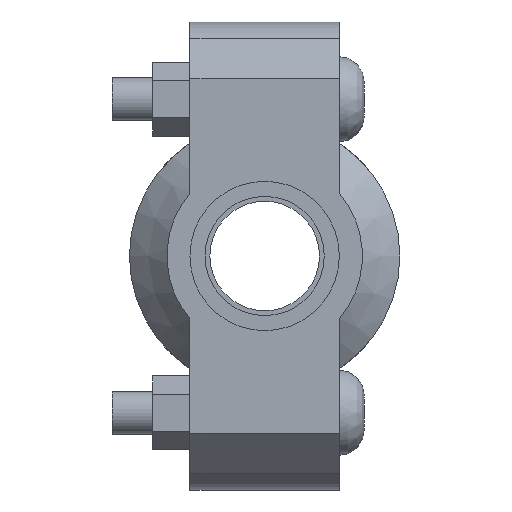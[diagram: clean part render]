
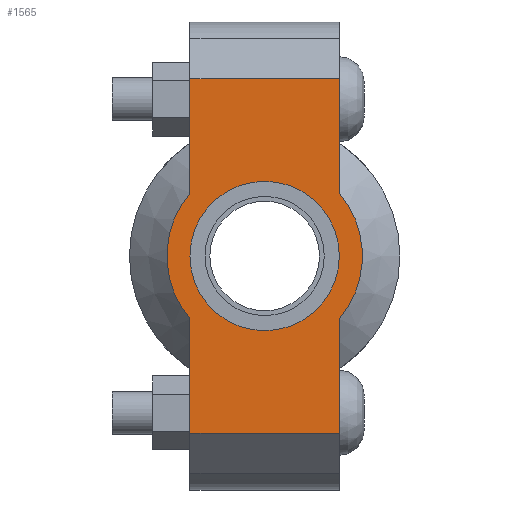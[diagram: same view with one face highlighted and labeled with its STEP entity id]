
A CAD part, left-side view. The second image highlights one B-rep face of the part: STEP entity #1565.
In plain terms, the highlighted planar face has unit normal (-1, 0, 0) as drawn and (0, 0, 1) by its records, which use the part's own axes.
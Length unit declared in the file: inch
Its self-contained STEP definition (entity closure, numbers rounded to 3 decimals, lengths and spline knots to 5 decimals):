
#120=LINE('',#2705,#217);
#135=LINE('',#2764,#232);
#143=LINE('',#2794,#240);
#145=LINE('',#2797,#242);
#146=LINE('',#2802,#243);
#147=LINE('',#2803,#244);
#217=VECTOR('',#2209,0.3937);
#232=VECTOR('',#2244,0.3937);
#240=VECTOR('',#2264,0.3937);
#242=VECTOR('',#2268,0.3937);
#243=VECTOR('',#2273,0.3937);
#244=VECTOR('',#2274,0.3937);
#308=FACE_BOUND('',#485,.T.);
#376=FACE_OUTER_BOUND('',#484,.T.);
#484=EDGE_LOOP('',(#1266,#1267,#1268,#1269,#1270,#1271,#1272,#1273));
#485=EDGE_LOOP('',(#1274));
#567=CIRCLE('',#1793,0.6575);
#591=CIRCLE('',#1845,0.86);
#592=CIRCLE('',#1846,0.86);
#663=VERTEX_POINT('',#2531);
#704=VERTEX_POINT('',#2702);
#705=VERTEX_POINT('',#2704);
#726=VERTEX_POINT('',#2759);
#727=VERTEX_POINT('',#2763);
#736=VERTEX_POINT('',#2789);
#737=VERTEX_POINT('',#2793);
#738=VERTEX_POINT('',#2799);
#739=VERTEX_POINT('',#2801);
#827=EDGE_CURVE('',#663,#663,#567,.T.);
#884=EDGE_CURVE('',#705,#704,#120,.T.);
#909=EDGE_CURVE('',#727,#726,#135,.T.);
#922=EDGE_CURVE('',#737,#736,#143,.T.);
#924=EDGE_CURVE('',#737,#704,#145,.T.);
#925=EDGE_CURVE('',#736,#738,#591,.T.);
#926=EDGE_CURVE('',#738,#739,#146,.T.);
#927=EDGE_CURVE('',#727,#739,#147,.T.);
#928=EDGE_CURVE('',#726,#705,#592,.T.);
#1266=ORIENTED_EDGE('',*,*,#924,.F.);
#1267=ORIENTED_EDGE('',*,*,#922,.T.);
#1268=ORIENTED_EDGE('',*,*,#925,.T.);
#1269=ORIENTED_EDGE('',*,*,#926,.T.);
#1270=ORIENTED_EDGE('',*,*,#927,.F.);
#1271=ORIENTED_EDGE('',*,*,#909,.T.);
#1272=ORIENTED_EDGE('',*,*,#928,.T.);
#1273=ORIENTED_EDGE('',*,*,#884,.T.);
#1274=ORIENTED_EDGE('',*,*,#827,.T.);
#1405=PLANE('',#1844);
#1565=ADVANCED_FACE('',(#376,#308),#1405,.T.);
#1793=AXIS2_PLACEMENT_3D('',#2533,#2099,#2100);
#1844=AXIS2_PLACEMENT_3D('',#2798,#2269,#2270);
#1845=AXIS2_PLACEMENT_3D('',#2800,#2271,#2272);
#1846=AXIS2_PLACEMENT_3D('',#2804,#2275,#2276);
#2099=DIRECTION('center_axis',(0.,0.,-1.));
#2100=DIRECTION('ref_axis',(-1.,0.,0.));
#2209=DIRECTION('',(-1.,0.,0.));
#2244=DIRECTION('',(-1.,0.,0.));
#2264=DIRECTION('',(1.,0.,0.));
#2268=DIRECTION('',(0.,1.,0.));
#2269=DIRECTION('center_axis',(0.,0.,1.));
#2270=DIRECTION('ref_axis',(1.,0.,0.));
#2271=DIRECTION('center_axis',(0.,0.,1.));
#2272=DIRECTION('ref_axis',(-1.,0.,0.));
#2273=DIRECTION('',(1.,0.,0.));
#2274=DIRECTION('',(0.,-1.,0.));
#2275=DIRECTION('center_axis',(0.,0.,1.));
#2276=DIRECTION('ref_axis',(-1.,0.,0.));
#2531=CARTESIAN_POINT('',(0.6575,0.,0.875));
#2533=CARTESIAN_POINT('Origin',(0.,0.,0.875));
#2702=CARTESIAN_POINT('',(-1.56,0.6575,0.875));
#2704=CARTESIAN_POINT('',(-0.55434,0.6575,0.875));
#2705=CARTESIAN_POINT('',(2.06,0.6575,0.875));
#2759=CARTESIAN_POINT('',(0.55434,0.6575,0.875));
#2763=CARTESIAN_POINT('',(1.56,0.6575,0.875));
#2764=CARTESIAN_POINT('',(2.06,0.6575,0.875));
#2789=CARTESIAN_POINT('',(-0.55434,-0.6575,0.875));
#2793=CARTESIAN_POINT('',(-1.56,-0.6575,0.875));
#2794=CARTESIAN_POINT('',(-2.06,-0.6575,0.875));
#2797=CARTESIAN_POINT('',(-1.56,0.32875,0.875));
#2798=CARTESIAN_POINT('Origin',(0.,0.,
0.875));
#2799=CARTESIAN_POINT('',(0.55434,-0.6575,0.875));
#2800=CARTESIAN_POINT('Origin',(0.,0.,0.875));
#2801=CARTESIAN_POINT('',(1.56,-0.6575,0.875));
#2802=CARTESIAN_POINT('',(-2.06,-0.6575,0.875));
#2803=CARTESIAN_POINT('',(1.56,-0.32875,0.875));
#2804=CARTESIAN_POINT('Origin',(0.,0.,0.875));
